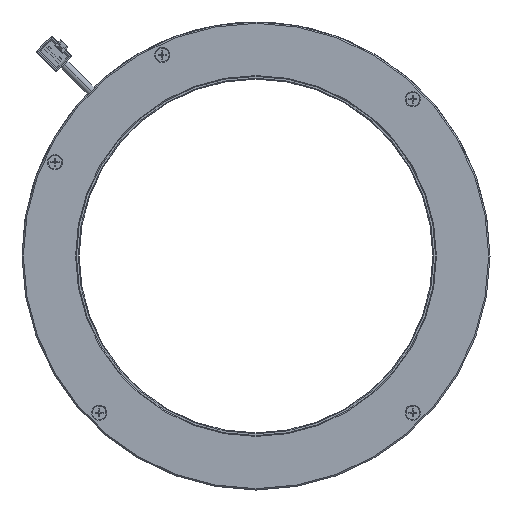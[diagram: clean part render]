
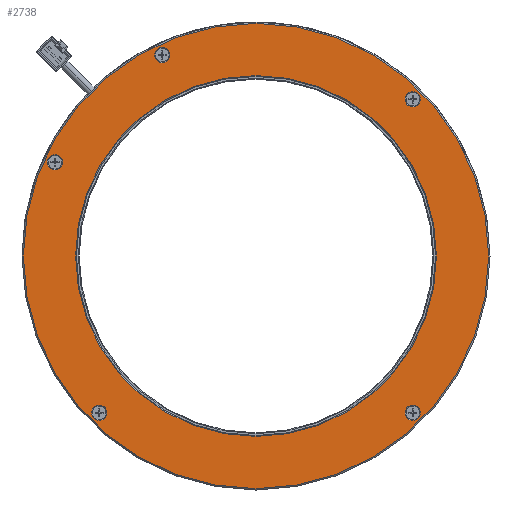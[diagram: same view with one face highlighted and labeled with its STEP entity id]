
A CAD part, front view. The second image highlights one B-rep face of the part: STEP entity #2738.
In plain terms, the highlighted planar face has unit normal (0, -1, 0).
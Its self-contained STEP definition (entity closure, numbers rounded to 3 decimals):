
#2197=CARTESIAN_POINT('',(0.,-11.,0.));
#2198=DIRECTION('',(0.,1.,0.));
#2199=DIRECTION('',(-1.,0.,0.));
#2200=AXIS2_PLACEMENT_3D('',#2197,#2198,#2199);
#2202=CARTESIAN_POINT('',(0.,-11.,0.));
#2203=DIRECTION('',(0.,1.,0.));
#2204=DIRECTION('',(1.,0.,0.));
#2205=AXIS2_PLACEMENT_3D('',#2202,#2203,#2204);
#2207=CARTESIAN_POINT('',(0.,-11.,0.));
#2208=DIRECTION('',(0.,-1.,0.));
#2209=DIRECTION('',(-1.,0.,0.));
#2210=AXIS2_PLACEMENT_3D('',#2207,#2208,#2209);
#2212=CARTESIAN_POINT('',(0.,-11.,0.));
#2213=DIRECTION('',(0.,-1.,0.));
#2214=DIRECTION('',(1.,0.,0.));
#2215=AXIS2_PLACEMENT_3D('',#2212,#2213,#2214);
#2217=CARTESIAN_POINT('',(57.629,-11.,57.629));
#2218=DIRECTION('',(0.,-1.,0.));
#2219=DIRECTION('',(0.,0.,1.));
#2220=AXIS2_PLACEMENT_3D('',#2217,#2218,#2219);
#2222=CARTESIAN_POINT('',(57.629,-11.,57.629));
#2223=DIRECTION('',(0.,-1.,0.));
#2224=DIRECTION('',(0.,0.,-1.));
#2225=AXIS2_PLACEMENT_3D('',#2222,#2223,#2224);
#2227=CARTESIAN_POINT('',(-34.443,-11.,73.864));
#2228=DIRECTION('',(0.,-1.,0.));
#2229=DIRECTION('',(0.,0.,1.));
#2230=AXIS2_PLACEMENT_3D('',#2227,#2228,#2229);
#2232=CARTESIAN_POINT('',(-34.443,-11.,73.864));
#2233=DIRECTION('',(0.,-1.,0.));
#2234=DIRECTION('',(0.,0.,-1.));
#2235=AXIS2_PLACEMENT_3D('',#2232,#2233,#2234);
#2237=CARTESIAN_POINT('',(-73.864,-11.,34.443));
#2238=DIRECTION('',(0.,-1.,0.));
#2239=DIRECTION('',(0.,0.,1.));
#2240=AXIS2_PLACEMENT_3D('',#2237,#2238,#2239);
#2242=CARTESIAN_POINT('',(-73.864,-11.,34.443));
#2243=DIRECTION('',(0.,-1.,0.));
#2244=DIRECTION('',(0.,0.,-1.));
#2245=AXIS2_PLACEMENT_3D('',#2242,#2243,#2244);
#2247=CARTESIAN_POINT('',(-57.629,-11.,-57.629));
#2248=DIRECTION('',(0.,-1.,0.));
#2249=DIRECTION('',(0.,0.,1.));
#2250=AXIS2_PLACEMENT_3D('',#2247,#2248,#2249);
#2252=CARTESIAN_POINT('',(-57.629,-11.,-57.629));
#2253=DIRECTION('',(0.,-1.,0.));
#2254=DIRECTION('',(0.,0.,-1.));
#2255=AXIS2_PLACEMENT_3D('',#2252,#2253,#2254);
#2257=CARTESIAN_POINT('',(57.629,-11.,-57.629));
#2258=DIRECTION('',(0.,-1.,0.));
#2259=DIRECTION('',(0.,0.,-1.));
#2260=AXIS2_PLACEMENT_3D('',#2257,#2258,#2259);
#2262=CARTESIAN_POINT('',(57.629,-11.,-57.629));
#2263=DIRECTION('',(0.,-1.,0.));
#2264=DIRECTION('',(0.,0.,1.));
#2265=AXIS2_PLACEMENT_3D('',#2262,#2263,#2264);
#2547=CARTESIAN_POINT('',(66.3,-11.,0.));
#2548=VERTEX_POINT('',#2547);
#2549=CARTESIAN_POINT('',(-66.3,-11.,0.));
#2550=VERTEX_POINT('',#2549);
#2551=CARTESIAN_POINT('',(-85.5,-11.,0.));
#2552=CARTESIAN_POINT('',(85.5,-11.,0.));
#2553=VERTEX_POINT('',#2551);
#2554=VERTEX_POINT('',#2552);
#2555=CARTESIAN_POINT('',(57.629,-11.,60.429));
#2556=CARTESIAN_POINT('',(57.629,-11.,54.829));
#2557=VERTEX_POINT('',#2555);
#2558=VERTEX_POINT('',#2556);
#2559=CARTESIAN_POINT('',(-34.443,-11.,76.664));
#2560=CARTESIAN_POINT('',(-34.443,-11.,71.064));
#2561=VERTEX_POINT('',#2559);
#2562=VERTEX_POINT('',#2560);
#2563=CARTESIAN_POINT('',(-73.864,-11.,37.243));
#2564=CARTESIAN_POINT('',(-73.864,-11.,31.643));
#2565=VERTEX_POINT('',#2563);
#2566=VERTEX_POINT('',#2564);
#2567=CARTESIAN_POINT('',(-57.629,-11.,-54.829));
#2568=CARTESIAN_POINT('',(-57.629,-11.,-60.429));
#2569=VERTEX_POINT('',#2567);
#2570=VERTEX_POINT('',#2568);
#2571=CARTESIAN_POINT('',(57.629,-11.,-60.429));
#2572=CARTESIAN_POINT('',(57.629,-11.,-54.829));
#2573=VERTEX_POINT('',#2571);
#2574=VERTEX_POINT('',#2572);
#2693=CARTESIAN_POINT('',(0.,-11.,0.));
#2694=DIRECTION('',(0.,-1.,0.));
#2695=DIRECTION('',(-1.,0.,0.));
#2696=AXIS2_PLACEMENT_3D('',#2693,#2694,#2695);
#2697=PLANE('',#2696);
#2699=ORIENTED_EDGE('',*,*,#2698,.T.);
#2701=ORIENTED_EDGE('',*,*,#2700,.T.);
#2702=EDGE_LOOP('',(#2699,#2701));
#2703=FACE_OUTER_BOUND('',#2702,.F.);
#2704=ORIENTED_EDGE('',*,*,#2672,.T.);
#2705=ORIENTED_EDGE('',*,*,#2688,.T.);
#2706=EDGE_LOOP('',(#2704,#2705));
#2707=FACE_BOUND('',#2706,.F.);
#2709=ORIENTED_EDGE('',*,*,#2708,.T.);
#2711=ORIENTED_EDGE('',*,*,#2710,.T.);
#2712=EDGE_LOOP('',(#2709,#2711));
#2713=FACE_BOUND('',#2712,.F.);
#2715=ORIENTED_EDGE('',*,*,#2714,.T.);
#2717=ORIENTED_EDGE('',*,*,#2716,.T.);
#2718=EDGE_LOOP('',(#2715,#2717));
#2719=FACE_BOUND('',#2718,.F.);
#2721=ORIENTED_EDGE('',*,*,#2720,.T.);
#2723=ORIENTED_EDGE('',*,*,#2722,.T.);
#2724=EDGE_LOOP('',(#2721,#2723));
#2725=FACE_BOUND('',#2724,.F.);
#2727=ORIENTED_EDGE('',*,*,#2726,.T.);
#2729=ORIENTED_EDGE('',*,*,#2728,.T.);
#2730=EDGE_LOOP('',(#2727,#2729));
#2731=FACE_BOUND('',#2730,.F.);
#2733=ORIENTED_EDGE('',*,*,#2732,.T.);
#2735=ORIENTED_EDGE('',*,*,#2734,.T.);
#2736=EDGE_LOOP('',(#2733,#2735));
#2737=FACE_BOUND('',#2736,.F.);
#2201=CIRCLE('',#2200,85.5);
#2206=CIRCLE('',#2205,85.5);
#2211=CIRCLE('',#2210,66.3);
#2216=CIRCLE('',#2215,66.3);
#2221=CIRCLE('',#2220,2.8);
#2226=CIRCLE('',#2225,2.8);
#2231=CIRCLE('',#2230,2.8);
#2236=CIRCLE('',#2235,2.8);
#2241=CIRCLE('',#2240,2.8);
#2246=CIRCLE('',#2245,2.8);
#2251=CIRCLE('',#2250,2.8);
#2256=CIRCLE('',#2255,2.8);
#2261=CIRCLE('',#2260,2.8);
#2266=CIRCLE('',#2265,2.8);
#2672=EDGE_CURVE('',#2550,#2548,#2211,.T.);
#2688=EDGE_CURVE('',#2548,#2550,#2216,.T.);
#2698=EDGE_CURVE('',#2553,#2554,#2201,.T.);
#2700=EDGE_CURVE('',#2554,#2553,#2206,.T.);
#2708=EDGE_CURVE('',#2557,#2558,#2221,.T.);
#2710=EDGE_CURVE('',#2558,#2557,#2226,.T.);
#2714=EDGE_CURVE('',#2561,#2562,#2231,.T.);
#2716=EDGE_CURVE('',#2562,#2561,#2236,.T.);
#2720=EDGE_CURVE('',#2565,#2566,#2241,.T.);
#2722=EDGE_CURVE('',#2566,#2565,#2246,.T.);
#2726=EDGE_CURVE('',#2569,#2570,#2251,.T.);
#2728=EDGE_CURVE('',#2570,#2569,#2256,.T.);
#2732=EDGE_CURVE('',#2573,#2574,#2261,.T.);
#2734=EDGE_CURVE('',#2574,#2573,#2266,.T.);
#2738=ADVANCED_FACE('',(#2703,#2707,#2713,#2719,#2725,#2731,#2737),#2697,.T.);
